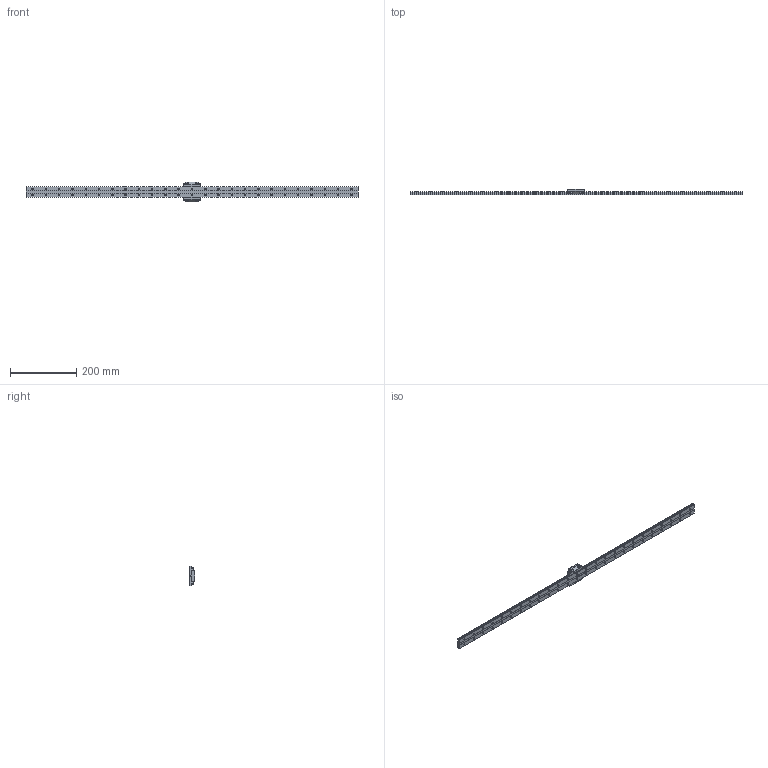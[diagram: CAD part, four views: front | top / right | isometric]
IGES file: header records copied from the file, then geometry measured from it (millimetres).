
Start section: Data from XPlus IGES,  Spatial Corp. Copyright (c) 1999-2004
Global section: file name: SHW17CAM1UU1000200474.5000.igs; native system:  By Spatial Corp.; preprocessor: XPlus ACIS/IGES 3.0; author: Noname; organization: Noname; date: 20161110.134337; units: millimetre
Bounding box: 1000 x 17 x 60 mm (x, y, z)
Surface area: 101885.3 mm2 (no closed solid volume)
Topology: 0 solids, 0 shells, 438 faces, 2228 edges, 2228 vertices
Faces by surface type: revolution 286, extrusion 152
